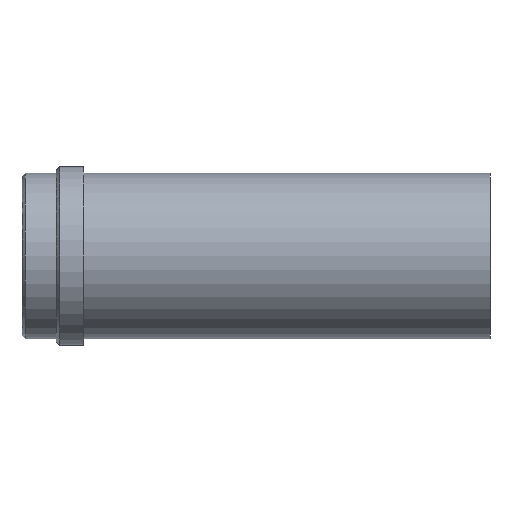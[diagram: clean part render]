
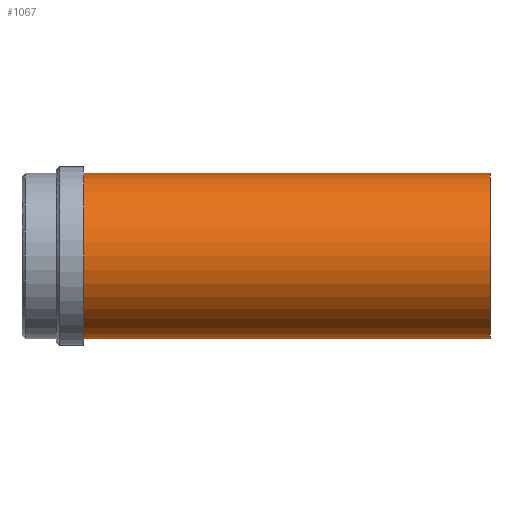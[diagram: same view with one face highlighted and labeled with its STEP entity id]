
A CAD part, front view. The second image highlights one B-rep face of the part: STEP entity #1067.
In plain terms, the highlighted cylindrical face has radius 24 mm (diameter 48 mm), a partial arc.
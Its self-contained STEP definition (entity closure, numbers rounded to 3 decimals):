
#953=CARTESIAN_POINT('Vertex',(0.,0.,-24.)) ;
#958=CARTESIAN_POINT('Axis2P3D Location',(0.,0.,0.)) ;
#962=CARTESIAN_POINT('Vertex',(0.,-24.,0.)) ;
#965=CARTESIAN_POINT('Axis2P3D Location',(0.,0.,0.)) ;
#969=CARTESIAN_POINT('Vertex',(0.,0.,24.)) ;
#995=CARTESIAN_POINT('Vertex',(118.,0.,24.)) ;
#998=CARTESIAN_POINT('Axis2P3D Location',(118.,0.,0.)) ;
#1002=CARTESIAN_POINT('Vertex',(118.,-24.,0.)) ;
#1005=CARTESIAN_POINT('Axis2P3D Location',(118.,0.,0.)) ;
#1009=CARTESIAN_POINT('Vertex',(118.,0.,-24.)) ;
#1035=CARTESIAN_POINT('Line Origine',(118.,0.,24.)) ;
#1040=CARTESIAN_POINT('Line Origine',(118.,0.,-24.)) ;
#1054=CARTESIAN_POINT('Axis2P3D Location',(118.,0.,0.)) ;
#959=DIRECTION('Axis2P3D Direction',(1.,0.,-0.)) ;
#966=DIRECTION('Axis2P3D Direction',(1.,0.,-0.)) ;
#999=DIRECTION('Axis2P3D Direction',(1.,0.,-0.)) ;
#1006=DIRECTION('Axis2P3D Direction',(1.,0.,-0.)) ;
#1036=DIRECTION('Vector Direction',(-1.,0.,0.)) ;
#1041=DIRECTION('Vector Direction',(-1.,0.,0.)) ;
#1055=DIRECTION('Axis2P3D Direction',(-1.,-0.,-0.)) ;
#1056=DIRECTION('Axis2P3D XDirection',(0.,0.,-1.)) ;
#960=AXIS2_PLACEMENT_3D('Circle Axis2P3D',#958,#959,$) ;
#967=AXIS2_PLACEMENT_3D('Circle Axis2P3D',#965,#966,$) ;
#1000=AXIS2_PLACEMENT_3D('Circle Axis2P3D',#998,#999,$) ;
#1007=AXIS2_PLACEMENT_3D('Circle Axis2P3D',#1005,#1006,$) ;
#1057=AXIS2_PLACEMENT_3D('Cylinder Axis2P3D',#1054,#1055,#1056) ;
#1060=ORIENTED_EDGE('',*,*,#1044,.T.) ;
#1061=ORIENTED_EDGE('',*,*,#1011,.F.) ;
#1062=ORIENTED_EDGE('',*,*,#1004,.F.) ;
#1063=ORIENTED_EDGE('',*,*,#1039,.T.) ;
#1064=ORIENTED_EDGE('',*,*,#971,.T.) ;
#1065=ORIENTED_EDGE('',*,*,#964,.T.) ;
#1037=VECTOR('Line Direction',#1036,1.) ;
#1042=VECTOR('Line Direction',#1041,1.) ;
#1067=ADVANCED_FACE('358-40X136',(#1066),#1058,.T.) ;
#961=CIRCLE('generated circle',#960,24.) ;
#968=CIRCLE('generated circle',#967,24.) ;
#1001=CIRCLE('generated circle',#1000,24.) ;
#1008=CIRCLE('generated circle',#1007,24.) ;
#1058=CYLINDRICAL_SURFACE('generated cylinder',#1057,24.) ;
#964=EDGE_CURVE('',#963,#954,#961,.T.) ;
#971=EDGE_CURVE('',#970,#963,#968,.T.) ;
#1004=EDGE_CURVE('',#996,#1003,#1001,.T.) ;
#1011=EDGE_CURVE('',#1003,#1010,#1008,.T.) ;
#1039=EDGE_CURVE('',#996,#970,#1038,.T.) ;
#1044=EDGE_CURVE('',#954,#1010,#1043,.F.) ;
#1059=EDGE_LOOP('',(#1060,#1061,#1062,#1063,#1064,#1065)) ;
#1066=FACE_OUTER_BOUND('',#1059,.T.) ;
#1038=LINE('Line',#1035,#1037) ;
#1043=LINE('Line',#1040,#1042) ;
#954=VERTEX_POINT('',#953) ;
#963=VERTEX_POINT('',#962) ;
#970=VERTEX_POINT('',#969) ;
#996=VERTEX_POINT('',#995) ;
#1003=VERTEX_POINT('',#1002) ;
#1010=VERTEX_POINT('',#1009) ;
